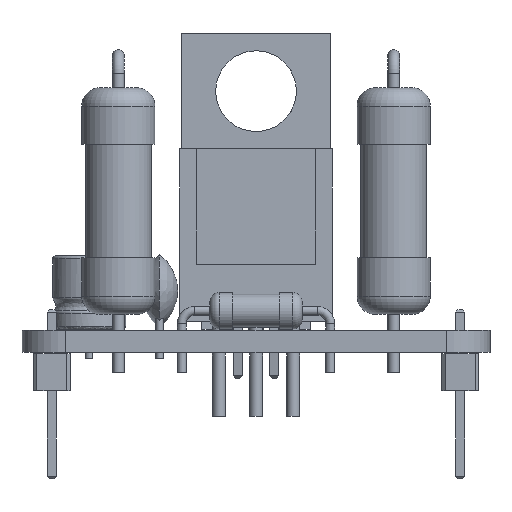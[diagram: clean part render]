
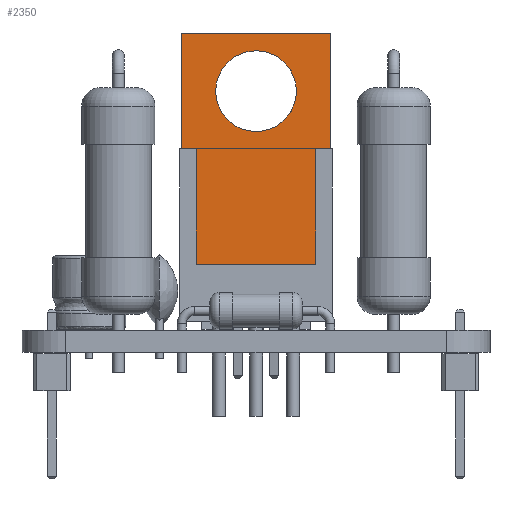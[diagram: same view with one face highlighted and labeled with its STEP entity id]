
A CAD part, front view. The second image highlights one B-rep face of the part: STEP entity #2350.
In plain terms, the highlighted planar face has unit normal (0, -1, 0) as drawn and (0, 1, 0) by its records, which use the part's own axes.
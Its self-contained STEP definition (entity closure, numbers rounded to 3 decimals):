
#2350 = ADVANCED_FACE('',(#2351,#2417),#2437,.T.);
#2351 = FACE_BOUND('',#2352,.T.);
#2352 = EDGE_LOOP('',(#2353,#2363,#2371,#2379,#2387,#2395,#2403,#2411));
#2353 = ORIENTED_EDGE('',*,*,#2354,.F.);
#2354 = EDGE_CURVE('',#2355,#2357,#2359,.T.);
#2355 = VERTEX_POINT('',#2356);
#2356 = CARTESIAN_POINT('',(-2.565,2.731,19.71));
#2357 = VERTEX_POINT('',#2358);
#2358 = CARTESIAN_POINT('',(-2.565,2.731,11.826));
#2359 = LINE('',#2360,#2361);
#2360 = CARTESIAN_POINT('',(-2.565,2.731,19.71));
#2361 = VECTOR('',#2362,1.);
#2362 = DIRECTION('',(0.,0.,-1.));
#2363 = ORIENTED_EDGE('',*,*,#2364,.F.);
#2364 = EDGE_CURVE('',#2365,#2355,#2367,.T.);
#2365 = VERTEX_POINT('',#2366);
#2366 = CARTESIAN_POINT('',(7.645,2.73,19.71));
#2367 = LINE('',#2368,#2369);
#2368 = CARTESIAN_POINT('',(7.645,2.73,19.71));
#2369 = VECTOR('',#2370,1.);
#2370 = DIRECTION('',(-1.,0.,0.));
#2371 = ORIENTED_EDGE('',*,*,#2372,.F.);
#2372 = EDGE_CURVE('',#2373,#2365,#2375,.T.);
#2373 = VERTEX_POINT('',#2374);
#2374 = CARTESIAN_POINT('',(7.645,2.73,11.826));
#2375 = LINE('',#2376,#2377);
#2376 = CARTESIAN_POINT('',(7.645,2.73,11.826));
#2377 = VECTOR('',#2378,1.);
#2378 = DIRECTION('',(0.,0.,1.));
#2379 = ORIENTED_EDGE('',*,*,#2380,.F.);
#2380 = EDGE_CURVE('',#2381,#2373,#2383,.T.);
#2381 = VERTEX_POINT('',#2382);
#2382 = CARTESIAN_POINT('',(6.624,2.73,11.826));
#2383 = LINE('',#2384,#2385);
#2384 = CARTESIAN_POINT('',(6.624,2.73,11.826));
#2385 = VECTOR('',#2386,1.);
#2386 = DIRECTION('',(1.,0.,0.));
#2387 = ORIENTED_EDGE('',*,*,#2388,.F.);
#2388 = EDGE_CURVE('',#2389,#2381,#2391,.T.);
#2389 = VERTEX_POINT('',#2390);
#2390 = CARTESIAN_POINT('',(6.624,2.73,3.942));
#2391 = LINE('',#2392,#2393);
#2392 = CARTESIAN_POINT('',(6.624,2.73,3.942));
#2393 = VECTOR('',#2394,1.);
#2394 = DIRECTION('',(0.,0.,1.));
#2395 = ORIENTED_EDGE('',*,*,#2396,.F.);
#2396 = EDGE_CURVE('',#2397,#2389,#2399,.T.);
#2397 = VERTEX_POINT('',#2398);
#2398 = CARTESIAN_POINT('',(-1.544,2.731,3.942));
#2399 = LINE('',#2400,#2401);
#2400 = CARTESIAN_POINT('',(-1.544,2.731,3.942));
#2401 = VECTOR('',#2402,1.);
#2402 = DIRECTION('',(1.,0.,0.));
#2403 = ORIENTED_EDGE('',*,*,#2404,.F.);
#2404 = EDGE_CURVE('',#2405,#2397,#2407,.T.);
#2405 = VERTEX_POINT('',#2406);
#2406 = CARTESIAN_POINT('',(-1.544,2.731,11.826));
#2407 = LINE('',#2408,#2409);
#2408 = CARTESIAN_POINT('',(-1.544,2.731,11.826));
#2409 = VECTOR('',#2410,1.);
#2410 = DIRECTION('',(0.,0.,-1.));
#2411 = ORIENTED_EDGE('',*,*,#2412,.F.);
#2412 = EDGE_CURVE('',#2357,#2405,#2413,.T.);
#2413 = LINE('',#2414,#2415);
#2414 = CARTESIAN_POINT('',(-2.565,2.731,11.826));
#2415 = VECTOR('',#2416,1.);
#2416 = DIRECTION('',(1.,0.,0.));
#2417 = FACE_BOUND('',#2418,.T.);
#2418 = EDGE_LOOP('',(#2419,#2430));
#2419 = ORIENTED_EDGE('',*,*,#2420,.F.);
#2420 = EDGE_CURVE('',#2421,#2423,#2425,.T.);
#2421 = VERTEX_POINT('',#2422);
#2422 = CARTESIAN_POINT('',(-0.219,2.731,15.768));
#2423 = VERTEX_POINT('',#2424);
#2424 = CARTESIAN_POINT('',(5.299,2.73,15.768));
#2425 = CIRCLE('',#2426,2.759);
#2426 = AXIS2_PLACEMENT_3D('',#2427,#2428,#2429);
#2427 = CARTESIAN_POINT('',(2.54,2.73,15.768));
#2428 = DIRECTION('',(-0.,1.,0.));
#2429 = DIRECTION('',(1.,0.,0.));
#2430 = ORIENTED_EDGE('',*,*,#2431,.F.);
#2431 = EDGE_CURVE('',#2423,#2421,#2432,.T.);
#2432 = CIRCLE('',#2433,2.759);
#2433 = AXIS2_PLACEMENT_3D('',#2434,#2435,#2436);
#2434 = CARTESIAN_POINT('',(2.54,2.73,15.768));
#2435 = DIRECTION('',(-0.,1.,0.));
#2436 = DIRECTION('',(1.,0.,0.));
#2437 = PLANE('',#2438);
#2438 = AXIS2_PLACEMENT_3D('',#2439,#2440,#2441);
#2439 = CARTESIAN_POINT('',(2.54,2.73,15.768));
#2440 = DIRECTION('',(0.,1.,0.));
#2441 = DIRECTION('',(-1.,0.,0.));
